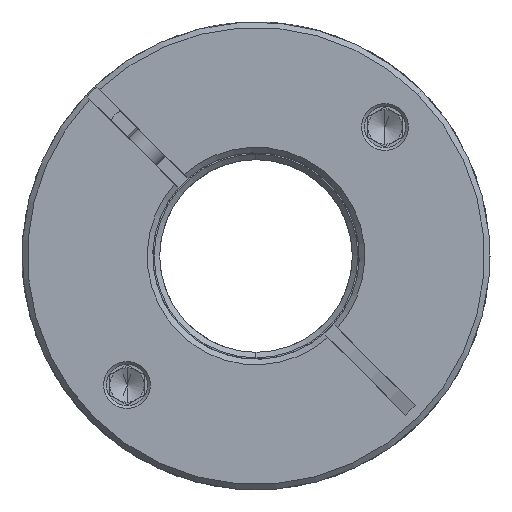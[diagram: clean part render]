
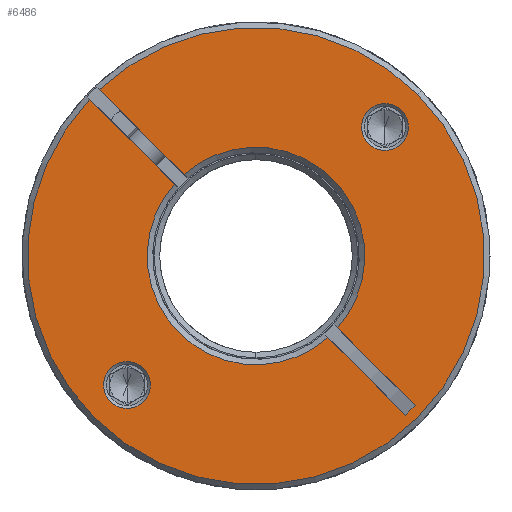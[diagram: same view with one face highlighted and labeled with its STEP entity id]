
A CAD part, front view. The second image highlights one B-rep face of the part: STEP entity #6486.
In plain terms, the highlighted planar face has unit normal (0, -1, 0).
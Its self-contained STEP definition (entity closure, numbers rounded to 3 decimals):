
#106 = CIRCLE ( 'NONE', #14841, 33.2 ) ;
#317 = CIRCLE ( 'NONE', #476, 33.2 ) ;
#320 = AXIS2_PLACEMENT_3D ( 'NONE', #1902, #13489, #14568 ) ;
#367 = DIRECTION ( 'NONE',  ( 0.707, 0., 0.707 ) ) ;
#416 = EDGE_CURVE ( 'NONE', #7739, #13974, #4130, .T. ) ;
#476 = AXIS2_PLACEMENT_3D ( 'NONE', #5159, #749, #9803 ) ;
#486 = AXIS2_PLACEMENT_3D ( 'NONE', #11657, #13339, #5398 ) ;
#749 = DIRECTION ( 'NONE',  ( 0., -1., 0. ) ) ;
#761 = ORIENTED_EDGE ( 'NONE', *, *, #10915, .T. ) ;
#923 = CIRCLE ( 'NONE', #5150, 3.4 ) ;
#939 = EDGE_CURVE ( 'NONE', #10296, #11574, #20103, .T. ) ;
#1330 = PLANE ( 'NONE',  #1725 ) ;
#1332 = CARTESIAN_POINT ( 'NONE',  ( 7.708, -67.045, 56.143 ) ) ;
#1725 = AXIS2_PLACEMENT_3D ( 'NONE', #8001, #21088, #14351 ) ;
#1809 = CARTESIAN_POINT ( 'NONE',  ( 18.988, -67.045, 44.862 ) ) ;
#1902 = CARTESIAN_POINT ( 'NONE',  ( -21.473, -67.045, 49.262 ) ) ;
#2037 = EDGE_CURVE ( 'NONE', #5067, #12627, #15600, .T. ) ;
#2555 = EDGE_CURVE ( 'NONE', #11574, #16781, #10147, .T. ) ;
#2855 = DIRECTION ( 'NONE',  ( 0.707, 0., 0.707 ) ) ;
#2992 = CARTESIAN_POINT ( 'NONE',  ( -19.069, -67.045, 51.666 ) ) ;
#3119 = AXIS2_PLACEMENT_3D ( 'NONE', #15961, #9307, #12707 ) ;
#3244 = DIRECTION ( 'NONE',  ( 0., -1., 0. ) ) ;
#3586 = CARTESIAN_POINT ( 'NONE',  ( -21.473, -67.045, 49.262 ) ) ;
#4014 = CARTESIAN_POINT ( 'NONE',  ( -25.493, -67.045, 92.172 ) ) ;
#4130 = CIRCLE ( 'NONE', #17593, 3.4 ) ;
#4496 = DIRECTION ( 'NONE',  ( 0., 1., 0. ) ) ;
#4601 = CARTESIAN_POINT ( 'NONE',  ( 9.122, -67.045, 57.557 ) ) ;
#5067 = VERTEX_POINT ( 'NONE', #1332 ) ;
#5150 = AXIS2_PLACEMENT_3D ( 'NONE', #14426, #4496, #2855 ) ;
#5159 = CARTESIAN_POINT ( 'NONE',  ( -2.735, -67.045, 68. ) ) ;
#5398 = DIRECTION ( 'NONE',  ( 0.707, 0., 0.707 ) ) ;
#5543 = FACE_OUTER_BOUND ( 'NONE', #12641, .T. ) ;
#5759 = CARTESIAN_POINT ( 'NONE',  ( 18.407, -67.045, 89.142 ) ) ;
#5950 = EDGE_CURVE ( 'NONE', #20039, #12975, #923, .T. ) ;
#6198 = ORIENTED_EDGE ( 'NONE', *, *, #416, .T. ) ;
#6243 = CARTESIAN_POINT ( 'NONE',  ( -2.735, -67.045, 68. ) ) ;
#6486 = ADVANCED_FACE ( 'NONE', ( #15872, #10681, #5543 ), #1330, .T. ) ;
#6512 = CARTESIAN_POINT ( 'NONE',  ( -2.735, -67.045, 68. ) ) ;
#6544 = AXIS2_PLACEMENT_3D ( 'NONE', #12052, #15175, #16765 ) ;
#6555 = CIRCLE ( 'NONE', #486, 33.2 ) ;
#6575 = CARTESIAN_POINT ( 'NONE',  ( -23.878, -67.045, 46.858 ) ) ;
#6676 = EDGE_CURVE ( 'NONE', #9785, #13373, #6555, .T. ) ;
#7055 = LINE ( 'NONE', #8751, #20759 ) ;
#7171 = VERTEX_POINT ( 'NONE', #9841 ) ;
#7200 = EDGE_LOOP ( 'NONE', ( #9866, #6198 ) ) ;
#7229 = EDGE_CURVE ( 'NONE', #20065, #12627, #7055, .T. ) ;
#7430 = CARTESIAN_POINT ( 'NONE',  ( -26.908, -67.045, 90.758 ) ) ;
#7568 = ORIENTED_EDGE ( 'NONE', *, *, #7229, .F. ) ;
#7611 = EDGE_CURVE ( 'NONE', #20065, #9785, #106, .T. ) ;
#7739 = VERTEX_POINT ( 'NONE', #6575 ) ;
#7775 = CARTESIAN_POINT ( 'NONE',  ( -2.028, -67.045, 68.707 ) ) ;
#8001 = CARTESIAN_POINT ( 'NONE',  ( -2.735, -67.045, 68. ) ) ;
#8008 = ORIENTED_EDGE ( 'NONE', *, *, #13194, .F. ) ;
#8210 = LINE ( 'NONE', #10984, #20386 ) ;
#8751 = CARTESIAN_POINT ( 'NONE',  ( -3.442, -67.045, 67.293 ) ) ;
#9239 = LINE ( 'NONE', #7775, #21409 ) ;
#9307 = DIRECTION ( 'NONE',  ( 0., 1., 0. ) ) ;
#9785 = VERTEX_POINT ( 'NONE', #14662 ) ;
#9803 = DIRECTION ( 'NONE',  ( 0.707, 0., 0.707 ) ) ;
#9841 = CARTESIAN_POINT ( 'NONE',  ( 20.402, -67.045, 46.277 ) ) ;
#9859 = EDGE_CURVE ( 'NONE', #7171, #11850, #17303, .T. ) ;
#9866 = ORIENTED_EDGE ( 'NONE', *, *, #12851, .T. ) ;
#9932 = LINE ( 'NONE', #10088, #13815 ) ;
#10088 = CARTESIAN_POINT ( 'NONE',  ( -2.028, -67.045, 68.707 ) ) ;
#10146 = DIRECTION ( 'NONE',  ( 0., 1., 0. ) ) ;
#10147 = CIRCLE ( 'NONE', #3119, 15.8 ) ;
#10257 = AXIS2_PLACEMENT_3D ( 'NONE', #6243, #11142, #17818 ) ;
#10296 = VERTEX_POINT ( 'NONE', #18696 ) ;
#10598 = EDGE_CURVE ( 'NONE', #12975, #20039, #14173, .T. ) ;
#10624 = EDGE_LOOP ( 'NONE', ( #16922, #17094 ) ) ;
#10681 = FACE_BOUND ( 'NONE', #7200, .T. ) ;
#10724 = ORIENTED_EDGE ( 'NONE', *, *, #2555, .T. ) ;
#10915 = EDGE_CURVE ( 'NONE', #18533, #10296, #9239, .T. ) ;
#10979 = ORIENTED_EDGE ( 'NONE', *, *, #9859, .T. ) ;
#10984 = CARTESIAN_POINT ( 'NONE',  ( -3.442, -67.045, 67.293 ) ) ;
#11142 = DIRECTION ( 'NONE',  ( 0., 1., 0. ) ) ;
#11211 = DIRECTION ( 'NONE',  ( 0.707, 0., -0.707 ) ) ;
#11574 = VERTEX_POINT ( 'NONE', #14368 ) ;
#11657 = CARTESIAN_POINT ( 'NONE',  ( -2.735, -67.045, 68. ) ) ;
#11755 = DIRECTION ( 'NONE',  ( 0.707, 0., -0.707 ) ) ;
#11850 = VERTEX_POINT ( 'NONE', #1809 ) ;
#11990 = CARTESIAN_POINT ( 'NONE',  ( 20.741, -67.045, 91.476 ) ) ;
#12052 = CARTESIAN_POINT ( 'NONE',  ( 16.003, -67.045, 86.738 ) ) ;
#12166 = ORIENTED_EDGE ( 'NONE', *, *, #15117, .T. ) ;
#12627 = VERTEX_POINT ( 'NONE', #20101 ) ;
#12641 = EDGE_LOOP ( 'NONE', ( #7568, #13712, #21208, #17835, #761, #15247, #10724, #12166, #10979, #8008, #20230 ) ) ;
#12654 = DIRECTION ( 'NONE',  ( 0.707, 0., -0.707 ) ) ;
#12707 = DIRECTION ( 'NONE',  ( 0.707, 0., 0.707 ) ) ;
#12851 = EDGE_CURVE ( 'NONE', #13974, #7739, #15469, .T. ) ;
#12975 = VERTEX_POINT ( 'NONE', #16786 ) ;
#13031 = DIRECTION ( 'NONE',  ( 0.707, 0., 0.707 ) ) ;
#13194 = EDGE_CURVE ( 'NONE', #5067, #11850, #8210, .T. ) ;
#13339 = DIRECTION ( 'NONE',  ( 0., -1., 0. ) ) ;
#13373 = VERTEX_POINT ( 'NONE', #11990 ) ;
#13489 = DIRECTION ( 'NONE',  ( 0., 1., 0. ) ) ;
#13712 = ORIENTED_EDGE ( 'NONE', *, *, #7611, .T. ) ;
#13815 = VECTOR ( 'NONE', #11755, 1000. ) ;
#13974 = VERTEX_POINT ( 'NONE', #2992 ) ;
#14173 = CIRCLE ( 'NONE', #6544, 3.4 ) ;
#14351 = DIRECTION ( 'NONE',  ( 0.707, 0., 0.707 ) ) ;
#14368 = CARTESIAN_POINT ( 'NONE',  ( 8.437, -67.045, 79.172 ) ) ;
#14426 = CARTESIAN_POINT ( 'NONE',  ( 16.003, -67.045, 86.738 ) ) ;
#14441 = DIRECTION ( 'NONE',  ( -0.707, 0., -0.707 ) ) ;
#14568 = DIRECTION ( 'NONE',  ( 0.707, 0., 0.707 ) ) ;
#14662 = CARTESIAN_POINT ( 'NONE',  ( -26.211, -67.045, 44.524 ) ) ;
#14841 = AXIS2_PLACEMENT_3D ( 'NONE', #6512, #3244, #18077 ) ;
#15117 = EDGE_CURVE ( 'NONE', #16781, #7171, #9932, .T. ) ;
#15175 = DIRECTION ( 'NONE',  ( 0., 1., 0. ) ) ;
#15247 = ORIENTED_EDGE ( 'NONE', *, *, #939, .T. ) ;
#15469 = CIRCLE ( 'NONE', #320, 3.4 ) ;
#15600 = CIRCLE ( 'NONE', #10257, 15.8 ) ;
#15872 = FACE_BOUND ( 'NONE', #10624, .T. ) ;
#15961 = CARTESIAN_POINT ( 'NONE',  ( -2.735, -67.045, 68. ) ) ;
#16271 = DIRECTION ( 'NONE',  ( 0., 1., 0. ) ) ;
#16765 = DIRECTION ( 'NONE',  ( 0.707, 0., 0.707 ) ) ;
#16781 = VERTEX_POINT ( 'NONE', #4601 ) ;
#16786 = CARTESIAN_POINT ( 'NONE',  ( 13.599, -67.045, 84.334 ) ) ;
#16922 = ORIENTED_EDGE ( 'NONE', *, *, #5950, .T. ) ;
#17094 = ORIENTED_EDGE ( 'NONE', *, *, #10598, .T. ) ;
#17303 = LINE ( 'NONE', #20954, #17834 ) ;
#17593 = AXIS2_PLACEMENT_3D ( 'NONE', #3586, #10146, #367 ) ;
#17803 = EDGE_CURVE ( 'NONE', #13373, #18533, #317, .T. ) ;
#17818 = DIRECTION ( 'NONE',  ( 0.707, 0., 0.707 ) ) ;
#17834 = VECTOR ( 'NONE', #14441, 1000. ) ;
#17835 = ORIENTED_EDGE ( 'NONE', *, *, #17803, .T. ) ;
#18077 = DIRECTION ( 'NONE',  ( 0.707, 0., 0.707 ) ) ;
#18533 = VERTEX_POINT ( 'NONE', #4014 ) ;
#18696 = CARTESIAN_POINT ( 'NONE',  ( -13.178, -67.045, 79.857 ) ) ;
#19182 = CARTESIAN_POINT ( 'NONE',  ( -2.735, -67.045, 68. ) ) ;
#19890 = AXIS2_PLACEMENT_3D ( 'NONE', #19182, #16271, #13031 ) ;
#20039 = VERTEX_POINT ( 'NONE', #5759 ) ;
#20065 = VERTEX_POINT ( 'NONE', #7430 ) ;
#20101 = CARTESIAN_POINT ( 'NONE',  ( -14.592, -67.045, 78.443 ) ) ;
#20103 = CIRCLE ( 'NONE', #19890, 15.8 ) ;
#20230 = ORIENTED_EDGE ( 'NONE', *, *, #2037, .T. ) ;
#20340 = DIRECTION ( 'NONE',  ( 0.707, 0., -0.707 ) ) ;
#20386 = VECTOR ( 'NONE', #12654, 1000. ) ;
#20759 = VECTOR ( 'NONE', #20340, 1000. ) ;
#20954 = CARTESIAN_POINT ( 'NONE',  ( 18.988, -67.045, 44.862 ) ) ;
#21088 = DIRECTION ( 'NONE',  ( 0., -1., 0. ) ) ;
#21208 = ORIENTED_EDGE ( 'NONE', *, *, #6676, .T. ) ;
#21409 = VECTOR ( 'NONE', #11211, 1000. ) ;
